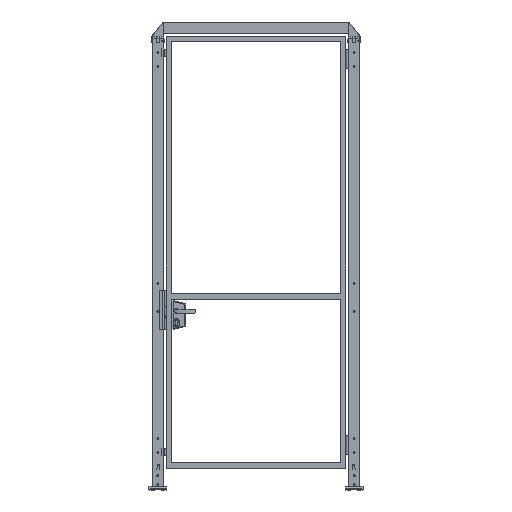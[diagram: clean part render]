
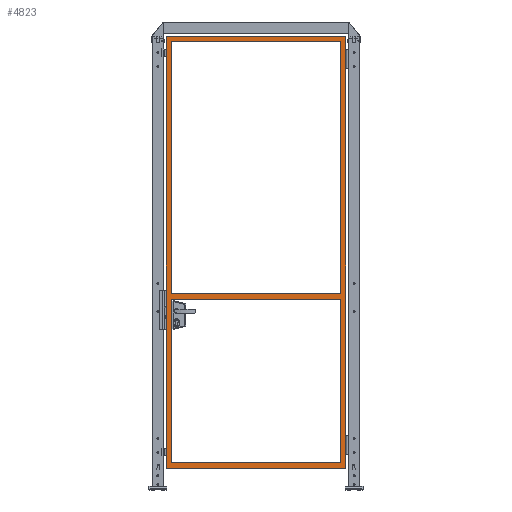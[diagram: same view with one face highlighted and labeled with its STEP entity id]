
A CAD part, top view. The second image highlights one B-rep face of the part: STEP entity #4823.
In plain terms, the highlighted planar face has unit normal (0, 0, 1).
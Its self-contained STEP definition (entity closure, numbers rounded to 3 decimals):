
#4823=ADVANCED_FACE('',(#9878,#9879,#9880),#9881,.F.);
#9878=FACE_BOUND('',#17852,.T.);
#9879=FACE_OUTER_BOUND('',#17853,.T.);
#9880=FACE_BOUND('',#17854,.T.);
#9881=PLANE('',#17855);
#17852=EDGE_LOOP('',(#32088,#32089,#32090,#32091));
#17853=EDGE_LOOP('',(#32092,#32093,#32094,#32095));
#17854=EDGE_LOOP('',(#32096,#32097,#32098,#32099));
#17855=AXIS2_PLACEMENT_3D('',#32100,#32101,#32102);
#32088=ORIENTED_EDGE('',*,*,#37969,.F.);
#32089=ORIENTED_EDGE('',*,*,#37975,.T.);
#32090=ORIENTED_EDGE('',*,*,#37997,.T.);
#32091=ORIENTED_EDGE('',*,*,#38002,.F.);
#32092=ORIENTED_EDGE('',*,*,#38013,.F.);
#32093=ORIENTED_EDGE('',*,*,#38007,.F.);
#32094=ORIENTED_EDGE('',*,*,#37977,.F.);
#32095=ORIENTED_EDGE('',*,*,#38011,.F.);
#32096=ORIENTED_EDGE('',*,*,#37999,.F.);
#32097=ORIENTED_EDGE('',*,*,#37994,.F.);
#32098=ORIENTED_EDGE('',*,*,#38005,.T.);
#32099=ORIENTED_EDGE('',*,*,#38014,.T.);
#32100=CARTESIAN_POINT('',(515.0,135.0,15.0));
#32101=DIRECTION('',(0.,0.0,-1.0));
#32102=DIRECTION('',(-1.0,0.0,0.));
#37969=EDGE_CURVE('',#46828,#46831,#46832,.T.);
#37975=EDGE_CURVE('',#46828,#46839,#46841,.T.);
#37977=EDGE_CURVE('',#46843,#46844,#46845,.T.);
#37994=EDGE_CURVE('',#46871,#46869,#46873,.T.);
#37997=EDGE_CURVE('',#46839,#46875,#46877,.T.);
#37999=EDGE_CURVE('',#46869,#46879,#46880,.T.);
#38002=EDGE_CURVE('',#46831,#46875,#46883,.T.);
#38005=EDGE_CURVE('',#46871,#46885,#46887,.T.);
#38007=EDGE_CURVE('',#46844,#46889,#46890,.T.);
#38011=EDGE_CURVE('',#46893,#46843,#46895,.T.);
#38013=EDGE_CURVE('',#46889,#46893,#46897,.T.);
#38014=EDGE_CURVE('',#46885,#46879,#46898,.T.);
#46828=VERTEX_POINT('',#60680);
#46831=VERTEX_POINT('',#60684);
#46832=LINE('',#60685,#60686);
#46839=VERTEX_POINT('',#60696);
#46841=LINE('',#60699,#60700);
#46843=VERTEX_POINT('',#60702);
#46844=VERTEX_POINT('',#60703);
#46845=LINE('',#60704,#60705);
#46869=VERTEX_POINT('',#60741);
#46871=VERTEX_POINT('',#60744);
#46873=LINE('',#60747,#60748);
#46875=VERTEX_POINT('',#60750);
#46877=LINE('',#60753,#60754);
#46879=VERTEX_POINT('',#60756);
#46880=LINE('',#60757,#60758);
#46883=LINE('',#60762,#60763);
#46885=VERTEX_POINT('',#60765);
#46887=LINE('',#60768,#60769);
#46889=VERTEX_POINT('',#60771);
#46890=LINE('',#60772,#60773);
#46893=VERTEX_POINT('',#60777);
#46895=LINE('',#60780,#60781);
#46897=LINE('',#60783,#60784);
#46898=LINE('',#60785,#60786);
#60680=CARTESIAN_POINT('',(985.0,2490.0,15.));
#60684=CARTESIAN_POINT('',(45.,2490.0,15.0));
#60685=CARTESIAN_POINT('',(515.0,2490.0,15.0));
#60686=VECTOR('',#67067,1.0);
#60696=CARTESIAN_POINT('',(985.0,1090.0,15.));
#60699=CARTESIAN_POINT('',(985.0,1320.0,15.));
#60700=VECTOR('',#67072,1.0);
#60702=CARTESIAN_POINT('',(15.0,120.0,15.0));
#60703=CARTESIAN_POINT('',(15.,2520.0,15.0));
#60704=CARTESIAN_POINT('',(15.0,135.0,15.0));
#60705=VECTOR('',#67073,1.0);
#60741=CARTESIAN_POINT('',(45.,1060.0,15.0));
#60744=CARTESIAN_POINT('',(985.0,1060.0,15.));
#60747=CARTESIAN_POINT('',(515.0,1060.0,15.0));
#60748=VECTOR('',#67088,1.0);
#60750=CARTESIAN_POINT('',(45.,1090.0,15.0));
#60753=CARTESIAN_POINT('',(515.0,1090.0,15.0));
#60754=VECTOR('',#67090,1.0);
#60756=CARTESIAN_POINT('',(45.0,150.0,15.0));
#60757=CARTESIAN_POINT('',(45.,1320.0,15.0));
#60758=VECTOR('',#67091,1.0);
#60762=CARTESIAN_POINT('',(45.,1320.0,15.0));
#60763=VECTOR('',#67093,1.0);
#60765=CARTESIAN_POINT('',(985.0,150.0,15.));
#60768=CARTESIAN_POINT('',(985.0,1320.0,15.));
#60769=VECTOR('',#67095,1.0);
#60771=CARTESIAN_POINT('',(1015.0,2520.0,15.));
#60772=CARTESIAN_POINT('',(30.,2520.0,15.0));
#60773=VECTOR('',#67096,1.0);
#60777=CARTESIAN_POINT('',(1015.0,120.0,15.));
#60780=CARTESIAN_POINT('',(515.0,120.0,15.0));
#60781=VECTOR('',#67099,1.0);
#60783=CARTESIAN_POINT('',(1015.0,1320.0,15.));
#60784=VECTOR('',#67100,1.0);
#60785=CARTESIAN_POINT('',(515.0,150.0,15.0));
#60786=VECTOR('',#67101,1.0);
#67067=DIRECTION('',(-1.0,0.0,0.));
#67072=DIRECTION('',(0.,-1.0,0.));
#67073=DIRECTION('',(0.0,1.0,0.0));
#67088=DIRECTION('',(-1.0,0.0,0.));
#67090=DIRECTION('',(-1.0,0.0,0.));
#67091=DIRECTION('',(0.,-1.0,0.));
#67093=DIRECTION('',(0.,-1.0,0.));
#67095=DIRECTION('',(0.,-1.0,0.));
#67096=DIRECTION('',(1.0,0.,0.));
#67099=DIRECTION('',(-1.0,0.0,0.));
#67100=DIRECTION('',(0.,-1.0,0.));
#67101=DIRECTION('',(-1.0,0.0,0.));
